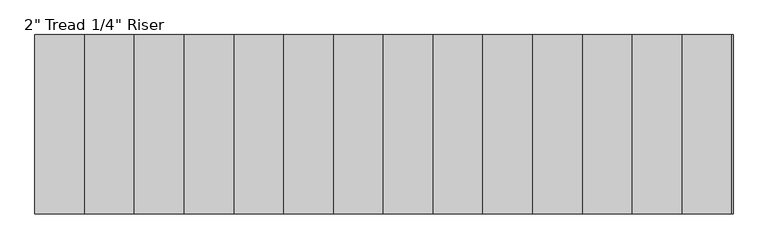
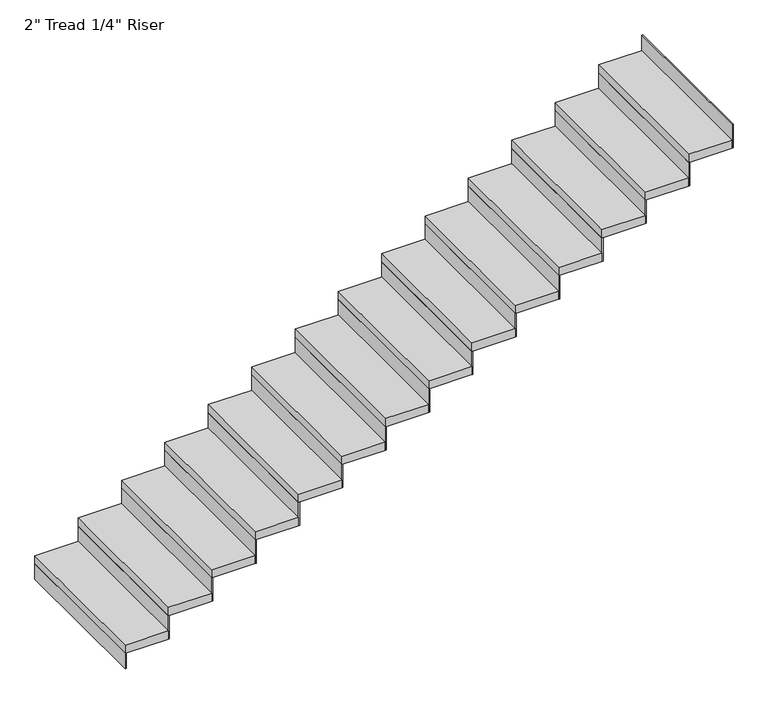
"""IFC4 building model written with IfcOpenShell, lengths in millimetres: stair flight geometry."""

from ifc_helpers import new_model, si_unit, frame, origin, origin_with_axes, place, context, project, spatial, polyline, outline, extrude, source, transform, mapped, element, save


def stair_flight_48e1a564(model_context):
    return source(origin(), model_context, "Body", "SweptSolid", [
        extrude(outline(polyline([(84202.5548368, -2400.7855758), (84196.2048368, -2400.7855758), (84196.2048368, -1486.3855758), (84202.5548368, -1486.3855758), (84202.5548368, -2400.7855758)])), origin_with_axes(), (0.0, 0.0, 1.0), 94.3428571),
        extrude(outline(polyline([(84450.2048368, -1486.3855758), (84450.2048368, -2400.7855758), (84196.2048368, -2400.7855758), (84196.2048368, -1486.3855758), (84450.2048368, -1486.3855758)])), frame((0.0, 0.0, 94.3428571), z_axis=(0.0, 0.0, 1.0), x_axis=(1.0, 0.0, 0.0)), (0.0, 0.0, 1.0), 50.8),
        extrude(outline(polyline([(84456.5548368, -2400.7855758), (84450.2048368, -2400.7855758), (84450.2048368, -1486.3855758), (84456.5548368, -1486.3855758), (84456.5548368, -2400.7855758)])), frame((0.0, 0.0, 94.3428571), z_axis=(0.0, 0.0, 1.0), x_axis=(1.0, 0.0, 0.0)), (0.0, 0.0, 1.0), 145.1428571),
        extrude(outline(polyline([(84704.2048368, -1486.3855758), (84704.2048368, -2400.7855758), (84450.2048368, -2400.7855758), (84450.2048368, -1486.3855758), (84704.2048368, -1486.3855758)])), frame((0.0, 0.0, 239.4857143), z_axis=(0.0, 0.0, 1.0), x_axis=(1.0, 0.0, 0.0)), (0.0, 0.0, 1.0), 50.8),
        extrude(outline(polyline([(84710.5548368, -2400.7855758), (84704.2048368, -2400.7855758), (84704.2048368, -1486.3855758), (84710.5548368, -1486.3855758), (84710.5548368, -2400.7855758)])), frame((0.0, 0.0, 239.4857143), z_axis=(0.0, 0.0, 1.0), x_axis=(1.0, 0.0, 0.0)), (0.0, 0.0, 1.0), 145.1428571),
        extrude(outline(polyline([(84958.2048368, -1486.3855758), (84958.2048368, -2400.7855758), (84704.2048368, -2400.7855758), (84704.2048368, -1486.3855758), (84958.2048368, -1486.3855758)])), frame((0.0, 0.0, 384.6285714), z_axis=(0.0, 0.0, 1.0), x_axis=(1.0, 0.0, 0.0)), (0.0, 0.0, 1.0), 50.8),
        extrude(outline(polyline([(84964.5548368, -2400.7855758), (84958.2048368, -2400.7855758), (84958.2048368, -1486.3855758), (84964.5548368, -1486.3855758), (84964.5548368, -2400.7855758)])), frame((0.0, 0.0, 384.6285714), z_axis=(0.0, 0.0, 1.0), x_axis=(1.0, 0.0, 0.0)), (0.0, 0.0, 1.0), 145.1428571),
        extrude(outline(polyline([(85212.2048368, -1486.3855758), (85212.2048368, -2400.7855758), (84958.2048368, -2400.7855758), (84958.2048368, -1486.3855758), (85212.2048368, -1486.3855758)])), frame((0.0, 0.0, 529.7714286), z_axis=(0.0, 0.0, 1.0), x_axis=(1.0, 0.0, 0.0)), (0.0, 0.0, 1.0), 50.8),
        extrude(outline(polyline([(85218.5548368, -2400.7855758), (85212.2048368, -2400.7855758), (85212.2048368, -1486.3855758), (85218.5548368, -1486.3855758), (85218.5548368, -2400.7855758)])), frame((0.0, 0.0, 529.7714286), z_axis=(0.0, 0.0, 1.0), x_axis=(1.0, 0.0, 0.0)), (0.0, 0.0, 1.0), 145.1428571),
        extrude(outline(polyline([(85466.2048368, -1486.3855758), (85466.2048368, -2400.7855758), (85212.2048368, -2400.7855758), (85212.2048368, -1486.3855758), (85466.2048368, -1486.3855758)])), frame((0.0, 0.0, 674.9142857), z_axis=(0.0, 0.0, 1.0), x_axis=(1.0, 0.0, 0.0)), (0.0, 0.0, 1.0), 50.8),
        extrude(outline(polyline([(85472.5548368, -2400.7855758), (85466.2048368, -2400.7855758), (85466.2048368, -1486.3855758), (85472.5548368, -1486.3855758), (85472.5548368, -2400.7855758)])), frame((0.0, 0.0, 674.9142857), z_axis=(0.0, 0.0, 1.0), x_axis=(1.0, 0.0, 0.0)), (0.0, 0.0, 1.0), 145.1428571),
        extrude(outline(polyline([(85720.2048368, -1486.3855758), (85720.2048368, -2400.7855758), (85466.2048368, -2400.7855758), (85466.2048368, -1486.3855758), (85720.2048368, -1486.3855758)])), frame((0.0, 0.0, 820.0571429), z_axis=(0.0, 0.0, 1.0), x_axis=(1.0, 0.0, 0.0)), (0.0, 0.0, 1.0), 50.8),
        extrude(outline(polyline([(85726.5548368, -2400.7855758), (85720.2048368, -2400.7855758), (85720.2048368, -1486.3855758), (85726.5548368, -1486.3855758), (85726.5548368, -2400.7855758)])), frame((0.0, 0.0, 820.0571429), z_axis=(0.0, 0.0, 1.0), x_axis=(1.0, 0.0, 0.0)), (0.0, 0.0, 1.0), 145.1428571),
        extrude(outline(polyline([(85974.2048368, -1486.3855758), (85974.2048368, -2400.7855758), (85720.2048368, -2400.7855758), (85720.2048368, -1486.3855758), (85974.2048368, -1486.3855758)])), frame((0.0, 0.0, 965.2), z_axis=(0.0, 0.0, 1.0), x_axis=(1.0, 0.0, 0.0)), (0.0, 0.0, 1.0), 50.8),
        extrude(outline(polyline([(85980.5548368, -2400.7855758), (85974.2048368, -2400.7855758), (85974.2048368, -1486.3855758), (85980.5548368, -1486.3855758), (85980.5548368, -2400.7855758)])), frame((0.0, 0.0, 965.2), z_axis=(0.0, 0.0, 1.0), x_axis=(1.0, 0.0, 0.0)), (0.0, 0.0, 1.0), 145.1428571),
        extrude(outline(polyline([(86228.2048368, -1486.3855758), (86228.2048368, -2400.7855758), (85974.2048368, -2400.7855758), (85974.2048368, -1486.3855758), (86228.2048368, -1486.3855758)])), frame((0.0, 0.0, 1110.3428571), z_axis=(0.0, 0.0, 1.0), x_axis=(1.0, 0.0, 0.0)), (0.0, 0.0, 1.0), 50.8),
        extrude(outline(polyline([(86234.5548368, -2400.7855758), (86228.2048368, -2400.7855758), (86228.2048368, -1486.3855758), (86234.5548368, -1486.3855758), (86234.5548368, -2400.7855758)])), frame((0.0, 0.0, 1110.3428571), z_axis=(0.0, 0.0, 1.0), x_axis=(1.0, 0.0, 0.0)), (0.0, 0.0, 1.0), 145.1428571),
        extrude(outline(polyline([(86482.2048368, -1486.3855758), (86482.2048368, -2400.7855758), (86228.2048368, -2400.7855758), (86228.2048368, -1486.3855758), (86482.2048368, -1486.3855758)])), frame((0.0, 0.0, 1255.4857143), z_axis=(0.0, 0.0, 1.0), x_axis=(1.0, 0.0, 0.0)), (0.0, 0.0, 1.0), 50.8),
        extrude(outline(polyline([(86488.5548368, -2400.7855758), (86482.2048368, -2400.7855758), (86482.2048368, -1486.3855758), (86488.5548368, -1486.3855758), (86488.5548368, -2400.7855758)])), frame((0.0, 0.0, 1255.4857143), z_axis=(0.0, 0.0, 1.0), x_axis=(1.0, 0.0, 0.0)), (0.0, 0.0, 1.0), 145.1428571),
        extrude(outline(polyline([(86736.2048368, -1486.3855758), (86736.2048368, -2400.7855758), (86482.2048368, -2400.7855758), (86482.2048368, -1486.3855758), (86736.2048368, -1486.3855758)])), frame((0.0, 0.0, 1400.6285714), z_axis=(0.0, 0.0, 1.0), x_axis=(1.0, 0.0, 0.0)), (0.0, 0.0, 1.0), 50.8),
        extrude(outline(polyline([(86742.5548368, -2400.7855758), (86736.2048368, -2400.7855758), (86736.2048368, -1486.3855758), (86742.5548368, -1486.3855758), (86742.5548368, -2400.7855758)])), frame((0.0, 0.0, 1400.6285714), z_axis=(0.0, 0.0, 1.0), x_axis=(1.0, 0.0, 0.0)), (0.0, 0.0, 1.0), 145.1428571),
        extrude(outline(polyline([(86990.2048368, -1486.3855758), (86990.2048368, -2400.7855758), (86736.2048368, -2400.7855758), (86736.2048368, -1486.3855758), (86990.2048368, -1486.3855758)])), frame((0.0, 0.0, 1545.7714286), z_axis=(0.0, 0.0, 1.0), x_axis=(1.0, 0.0, 0.0)), (0.0, 0.0, 1.0), 50.8),
        extrude(outline(polyline([(86996.5548368, -2400.7855758), (86990.2048368, -2400.7855758), (86990.2048368, -1486.3855758), (86996.5548368, -1486.3855758), (86996.5548368, -2400.7855758)])), frame((0.0, 0.0, 1545.7714286), z_axis=(0.0, 0.0, 1.0), x_axis=(1.0, 0.0, 0.0)), (0.0, 0.0, 1.0), 145.1428571),
        extrude(outline(polyline([(87244.2048368, -1486.3855758), (87244.2048368, -2400.7855758), (86990.2048368, -2400.7855758), (86990.2048368, -1486.3855758), (87244.2048368, -1486.3855758)])), frame((0.0, 0.0, 1690.9142857), z_axis=(0.0, 0.0, 1.0), x_axis=(1.0, 0.0, 0.0)), (0.0, 0.0, 1.0), 50.8),
        extrude(outline(polyline([(87250.5548368, -2400.7855758), (87244.2048368, -2400.7855758), (87244.2048368, -1486.3855758), (87250.5548368, -1486.3855758), (87250.5548368, -2400.7855758)])), frame((0.0, 0.0, 1690.9142857), z_axis=(0.0, 0.0, 1.0), x_axis=(1.0, 0.0, 0.0)), (0.0, 0.0, 1.0), 145.1428571),
        extrude(outline(polyline([(87498.2048368, -1486.3855758), (87498.2048368, -2400.7855758), (87244.2048368, -2400.7855758), (87244.2048368, -1486.3855758), (87498.2048368, -1486.3855758)])), frame((0.0, 0.0, 1836.0571429), z_axis=(0.0, 0.0, 1.0), x_axis=(1.0, 0.0, 0.0)), (0.0, 0.0, 1.0), 50.8),
        extrude(outline(polyline([(87504.5548368, -2400.7855758), (87498.2048368, -2400.7855758), (87498.2048368, -1486.3855758), (87504.5548368, -1486.3855758), (87504.5548368, -2400.7855758)])), frame((0.0, 0.0, 1836.0571429), z_axis=(0.0, 0.0, 1.0), x_axis=(1.0, 0.0, 0.0)), (0.0, 0.0, 1.0), 145.1428571),
        extrude(outline(polyline([(87758.5548368, -2400.7855758), (87752.2048368, -2400.7855758), (87752.2048368, -1486.3855758), (87758.5548368, -1486.3855758), (87758.5548368, -2400.7855758)])), frame((0.0, 0.0, 1981.2), z_axis=(0.0, 0.0, 1.0), x_axis=(1.0, 0.0, 0.0)), (0.0, 0.0, 1.0), 145.1428571),
        extrude(outline(polyline([(87752.2048368, -1486.3855758), (87752.2048368, -2400.7855758), (87498.2048368, -2400.7855758), (87498.2048368, -1486.3855758), (87752.2048368, -1486.3855758)])), frame((0.0, 0.0, 1981.2), z_axis=(0.0, 0.0, 1.0), x_axis=(1.0, 0.0, 0.0)), (0.0, 0.0, 1.0), 50.8),
    ])


if __name__ == "__main__":
    model = new_model("IFC4")
    model_context = context("Model", 3, world=origin())
    ifc_project = project(units=[si_unit("LENGTHUNIT", "METRE", prefix="MILLI")], contexts=[model_context])
    site = spatial("IfcSite", under=ifc_project)
    building = spatial("IfcBuilding", under=site)
    placement = place(None, origin())
    stair_flight_shape = stair_flight_48e1a564(model_context)
    element("IfcStairFlight", 1, ObjectType="2\" Tread 1/4\" Riser", at=placement, inside=building, context=model_context, shape_type="MappedRepresentation", body=[
        mapped(stair_flight_shape, transform((0.0, 0.0, 0.0), x_axis=(1.0, 0.0, 0.0), y_axis=(0.0, 1.0, 0.0), z_axis=(0.0, 0.0, 1.0))),
    ])
    save(model, "model.ifc")
